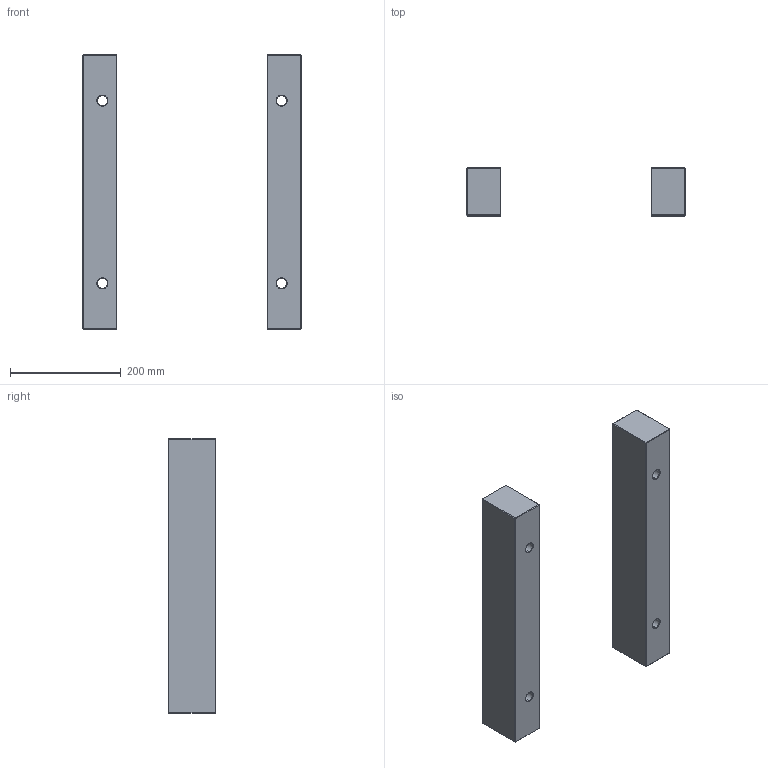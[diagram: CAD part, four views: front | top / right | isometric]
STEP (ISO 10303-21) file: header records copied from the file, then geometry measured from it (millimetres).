
FILE_DESCRIPTION (( 'STEP AP214' ), '1' );
FILE_NAME ('ESP-396X496x86.STEP', '2020-04-14T08:45:37', ( 'August' ), ( '' ), 'SwSTEP 2.0', 'SolidWorks 2018', '' );
FILE_SCHEMA (( 'AUTOMOTIVE_DESIGN' ));
Length unit declared in the file: millimetre
Products named in the file (1): ESP-396X496x86
Bounding box: 396 x 86 x 496 mm (x, y, z)
Volume: 5199006.8 mm3; surface area: 329098.4 mm2
Topology: 2 solids, 2 shells, 76 faces, 152 edges, 80 vertices
Faces by surface type: plane 52, cone 16, cylinder 8
Entity records: 1935 total; most frequent: DIRECTION 338, CARTESIAN_POINT 309, ORIENTED_EDGE 304, EDGE_CURVE 152, VECTOR 120, LINE 120, AXIS2_PLACEMENT_3D 109, EDGE_LOOP 84
